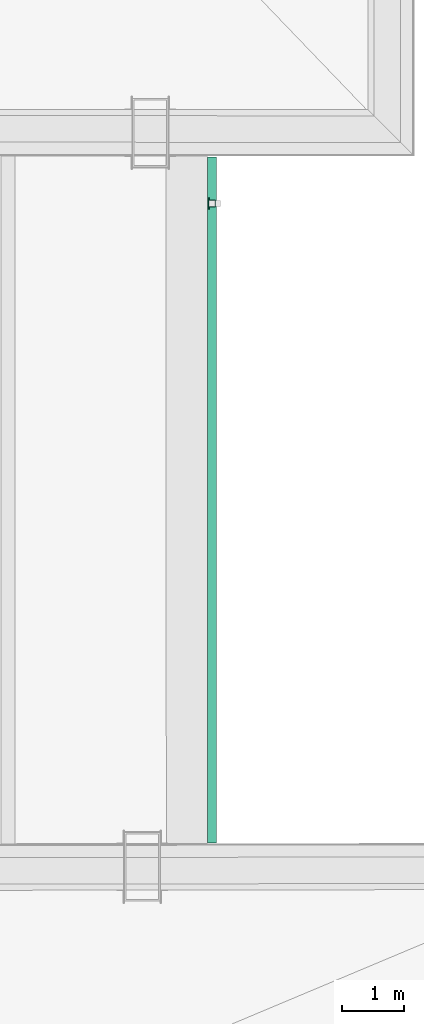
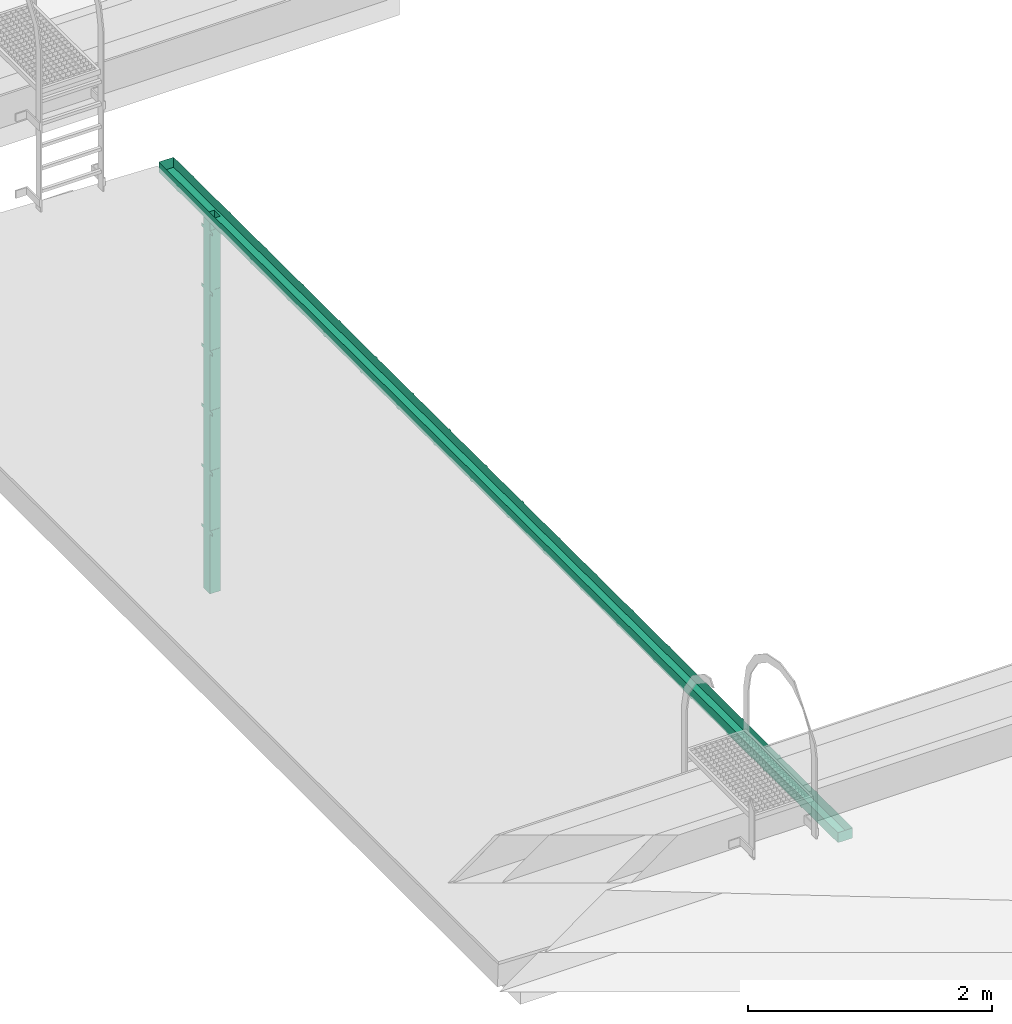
# One storey, part 27 of 47: 2 flow terminals.
"""IFC2X3 building model written with IfcOpenShell, lengths in millimetres."""

from ifc_helpers import new_model, entity, si_unit, converted_unit, derived_unit, money_unit, direction, frame, origin_with_axes, place, context, subcontext, project, spatial, open_shell, faceted_brep, surface_model, type_object, element, save


model = new_model("IFC2X3")

# Units and contexts
model_context = context("Model", 3, precision=1e-05, world=origin_with_axes(), true_north=direction((0.0, 1.0)))
body_context = subcontext(model_context, "Body", "Model", "MODEL_VIEW")
ifc_project = project(units=[si_unit("LENGTHUNIT", "METRE", prefix="MILLI"), si_unit("AREAUNIT", "SQUARE_METRE"), si_unit("VOLUMEUNIT", "CUBIC_METRE"), converted_unit("PLANEANGLEUNIT", "DEGREE", entity("IfcPlaneAngleMeasure", 0.0174532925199), si_unit("PLANEANGLEUNIT", "RADIAN"), dimensions=[0, 0, 0, 0, 0, 0, 0]), si_unit("SOLIDANGLEUNIT", "STERADIAN"), money_unit("EUR"), converted_unit("TIMEUNIT", "Year", entity("IfcTimeMeasure", 31556926.0), si_unit("TIMEUNIT", "SECOND"), dimensions=[0, 0, 1, 0, 0, 0, 0]), si_unit("MASSUNIT", "GRAM", prefix="KILO"), si_unit("THERMODYNAMICTEMPERATUREUNIT", "DEGREE_CELSIUS"), si_unit("LUMINOUSINTENSITYUNIT", "LUMEN"), si_unit("ENERGYUNIT", "JOULE", prefix="MEGA"), derived_unit("THERMALCONDUCTANCEUNIT", [(si_unit("POWERUNIT", "WATT"), 1), (si_unit("LENGTHUNIT", "METRE"), -1), (si_unit("THERMODYNAMICTEMPERATUREUNIT", "KELVIN"), -1)]), derived_unit("SPECIFICHEATCAPACITYUNIT", [(si_unit("ENERGYUNIT", "JOULE"), 1), (si_unit("MASSUNIT", "GRAM", prefix="KILO"), -1), (si_unit("THERMODYNAMICTEMPERATUREUNIT", "KELVIN"), -1)]), derived_unit("MASSDENSITYUNIT", [(si_unit("MASSUNIT", "GRAM", prefix="KILO"), 1), (si_unit("VOLUMEUNIT", "CUBIC_METRE"), -1)])], contexts=[model_context])

# Site, building, storey
site_placement = place(None, origin_with_axes())
site = spatial("IfcSite", under=ifc_project, at=site_placement, Name="Site", CompositionType="ELEMENT")
building_placement = place(site_placement, origin_with_axes())
building = spatial("IfcBuilding", under=site, at=building_placement, Name="Building", CompositionType="ELEMENT")
storey_placement = place(building_placement, frame((0.0, 0.0, 6000.0), z_axis=(0.0, 0.0, 1.0), x_axis=(1.0, 0.0, 0.0)))
storey = spatial("IfcBuildingStorey", under=building, at=storey_placement, Name="KATUSEPLAAN", CompositionType="ELEMENT", Elevation=6000.0)

# Flow terminals
waste_terminal_type_1 = type_object("IfcWasteTerminalType", Name="Gutter 22", PredefinedType="NOTDEFINED")
flow_terminal_1_placement = place(storey_placement, frame((40568.5392322, 47555.4933203, 174.455668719), z_axis=(0.0, 0.0, 1.0), x_axis=(0.0, 1.0, 0.0)))
element("IfcFlowTerminal", 1, at=flow_terminal_1_placement, inside=storey, type_object=waste_terminal_type_1, Name="Renn", context=body_context, shape_type="SurfaceModel", body=[
    surface_model("IfcShellBasedSurfaceModel", [(-0.349065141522, 70.0, -99.9993907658), (-0.349065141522, -70.0, -99.9993907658), (11113.5234374, -70.0, -138.794281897), (11113.5234374, 70.0, -138.794281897), (10413.4599925, 50.0, -136.350589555), (10413.4599925, -50.0, -136.350589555), (10313.4606017, -50.0, -136.001524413), (10313.4606017, 50.0, -136.001524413), (0.0, -70.0, 0.0), (11113.8725025, -70.0, -38.7948911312), (11113.8725025, 70.0, -38.7948911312), (0.0, 70.0, 0.0)], [open_shell([[[0, 1, 2, 3], [4, 5, 6, 7]], [[2, 1, 8, 9]], [[10, 11, 0, 3]]])]),
    surface_model("IfcShellBasedSurfaceModel", [(585.0, -74.0, -0.0420435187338), (585.0, -74.0, -104.147372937), (615.0, -74.0, -104.147372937), (615.0, -74.0, -0.0420435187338), (585.0, 74.0, -104.147372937), (615.0, 74.0, -104.147372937), (585.0, 74.0, -0.0420435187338), (615.0, 74.0, -0.0420435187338)], [open_shell([[[0, 1, 2, 3]], [[1, 4, 5, 2]], [[4, 6, 7, 5]]])]),
    surface_model("IfcShellBasedSurfaceModel", [(1185.0, -74.0, -2.13644712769), (1185.0, -74.0, -106.241776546), (1215.0, -74.0, -106.241776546), (1215.0, -74.0, -2.13644712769), (1185.0, 74.0, -106.241776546), (1215.0, 74.0, -106.241776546), (1185.0, 74.0, -2.13644712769), (1215.0, 74.0, -2.13644712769)], [open_shell([[[0, 1, 2, 3]], [[1, 4, 5, 2]], [[4, 6, 7, 5]]])]),
    surface_model("IfcShellBasedSurfaceModel", [(1785.0, -74.0, -4.23085073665), (1785.0, -74.0, -108.336180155), (1815.0, -74.0, -108.336180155), (1815.0, -74.0, -4.23085073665), (1785.0, 74.0, -108.336180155), (1815.0, 74.0, -108.336180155), (1785.0, 74.0, -4.23085073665), (1815.0, 74.0, -4.23085073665)], [open_shell([[[0, 1, 2, 3]], [[1, 4, 5, 2]], [[4, 6, 7, 5]]])]),
    surface_model("IfcShellBasedSurfaceModel", [(2385.0, -74.0, -6.32525434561), (2385.0, -74.0, -110.430583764), (2415.0, -74.0, -110.430583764), (2415.0, -74.0, -6.32525434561), (2385.0, 74.0, -110.430583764), (2415.0, 74.0, -110.430583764), (2385.0, 74.0, -6.32525434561), (2415.0, 74.0, -6.32525434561)], [open_shell([[[0, 1, 2, 3]], [[1, 4, 5, 2]], [[4, 6, 7, 5]]])]),
    surface_model("IfcShellBasedSurfaceModel", [(2985.0, -74.0, -8.41965795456), (2985.0, -74.0, -112.524987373), (3015.0, -74.0, -112.524987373), (3015.0, -74.0, -8.41965795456), (2985.0, 74.0, -112.524987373), (3015.0, 74.0, -112.524987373), (2985.0, 74.0, -8.41965795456), (3015.0, 74.0, -8.41965795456)], [open_shell([[[0, 1, 2, 3]], [[1, 4, 5, 2]], [[4, 6, 7, 5]]])]),
    surface_model("IfcShellBasedSurfaceModel", [(3585.0, -74.0, -10.5140615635), (3585.0, -74.0, -114.619390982), (3615.0, -74.0, -114.619390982), (3615.0, -74.0, -10.5140615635), (3585.0, 74.0, -114.619390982), (3615.0, 74.0, -114.619390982), (3585.0, 74.0, -10.5140615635), (3615.0, 74.0, -10.5140615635)], [open_shell([[[0, 1, 2, 3]], [[1, 4, 5, 2]], [[4, 6, 7, 5]]])]),
    surface_model("IfcShellBasedSurfaceModel", [(4185.0, -74.0, -12.6084651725), (4185.0, -74.0, -116.713794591), (4215.0, -74.0, -116.713794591), (4215.0, -74.0, -12.6084651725), (4185.0, 74.0, -116.713794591), (4215.0, 74.0, -116.713794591), (4185.0, 74.0, -12.6084651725), (4215.0, 74.0, -12.6084651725)], [open_shell([[[0, 1, 2, 3]], [[1, 4, 5, 2]], [[4, 6, 7, 5]]])]),
    surface_model("IfcShellBasedSurfaceModel", [(4785.0, -74.0, -14.7028687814), (4785.0, -74.0, -118.8081982), (4815.0, -74.0, -118.8081982), (4815.0, -74.0, -14.7028687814), (4785.0, 74.0, -118.8081982), (4815.0, 74.0, -118.8081982), (4785.0, 74.0, -14.7028687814), (4815.0, 74.0, -14.7028687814)], [open_shell([[[0, 1, 2, 3]], [[1, 4, 5, 2]], [[4, 6, 7, 5]]])]),
    surface_model("IfcShellBasedSurfaceModel", [(5385.0, -74.0, -16.7972723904), (5385.0, -74.0, -120.902601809), (5415.0, -74.0, -120.902601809), (5415.0, -74.0, -16.7972723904), (5385.0, 74.0, -120.902601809), (5415.0, 74.0, -120.902601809), (5385.0, 74.0, -16.7972723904), (5415.0, 74.0, -16.7972723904)], [open_shell([[[0, 1, 2, 3]], [[1, 4, 5, 2]], [[4, 6, 7, 5]]])]),
    surface_model("IfcShellBasedSurfaceModel", [(5985.0, -74.0, -18.8916759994), (5985.0, -74.0, -122.997005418), (6015.0, -74.0, -122.997005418), (6015.0, -74.0, -18.8916759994), (5985.0, 74.0, -122.997005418), (6015.0, 74.0, -122.997005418), (5985.0, 74.0, -18.8916759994), (6015.0, 74.0, -18.8916759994)], [open_shell([[[0, 1, 2, 3]], [[1, 4, 5, 2]], [[4, 6, 7, 5]]])]),
    surface_model("IfcShellBasedSurfaceModel", [(6585.0, -74.0, -20.9860796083), (6585.0, -74.0, -125.091409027), (6615.0, -74.0, -125.091409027), (6615.0, -74.0, -20.9860796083), (6585.0, 74.0, -125.091409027), (6615.0, 74.0, -125.091409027), (6585.0, 74.0, -20.9860796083), (6615.0, 74.0, -20.9860796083)], [open_shell([[[0, 1, 2, 3]], [[1, 4, 5, 2]], [[4, 6, 7, 5]]])]),
    surface_model("IfcShellBasedSurfaceModel", [(7185.0, -74.0, -23.0804832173), (7185.0, -74.0, -127.185812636), (7215.0, -74.0, -127.185812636), (7215.0, -74.0, -23.0804832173), (7185.0, 74.0, -127.185812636), (7215.0, 74.0, -127.185812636), (7185.0, 74.0, -23.0804832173), (7215.0, 74.0, -23.0804832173)], [open_shell([[[0, 1, 2, 3]], [[1, 4, 5, 2]], [[4, 6, 7, 5]]])]),
    surface_model("IfcShellBasedSurfaceModel", [(7785.0, -74.0, -25.1748868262), (7785.0, -74.0, -129.280216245), (7815.0, -74.0, -129.280216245), (7815.0, -74.0, -25.1748868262), (7785.0, 74.0, -129.280216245), (7815.0, 74.0, -129.280216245), (7785.0, 74.0, -25.1748868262), (7815.0, 74.0, -25.1748868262)], [open_shell([[[0, 1, 2, 3]], [[1, 4, 5, 2]], [[4, 6, 7, 5]]])]),
    surface_model("IfcShellBasedSurfaceModel", [(8385.0, -74.0, -27.2692904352), (8385.0, -74.0, -131.374619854), (8415.0, -74.0, -131.374619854), (8415.0, -74.0, -27.2692904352), (8385.0, 74.0, -131.374619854), (8415.0, 74.0, -131.374619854), (8385.0, 74.0, -27.2692904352), (8415.0, 74.0, -27.2692904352)], [open_shell([[[0, 1, 2, 3]], [[1, 4, 5, 2]], [[4, 6, 7, 5]]])]),
    surface_model("IfcShellBasedSurfaceModel", [(8985.0, -74.0, -29.3636940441), (8985.0, -74.0, -133.469023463), (9015.0, -74.0, -133.469023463), (9015.0, -74.0, -29.3636940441), (8985.0, 74.0, -133.469023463), (9015.0, 74.0, -133.469023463), (8985.0, 74.0, -29.3636940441), (9015.0, 74.0, -29.3636940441)], [open_shell([[[0, 1, 2, 3]], [[1, 4, 5, 2]], [[4, 6, 7, 5]]])]),
    surface_model("IfcShellBasedSurfaceModel", [(9585.0, -74.0, -31.4580976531), (9585.0, -74.0, -135.563427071), (9615.0, -74.0, -135.563427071), (9615.0, -74.0, -31.4580976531), (9585.0, 74.0, -135.563427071), (9615.0, 74.0, -135.563427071), (9585.0, 74.0, -31.4580976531), (9615.0, 74.0, -31.4580976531)], [open_shell([[[0, 1, 2, 3]], [[1, 4, 5, 2]], [[4, 6, 7, 5]]])]),
    surface_model("IfcShellBasedSurfaceModel", [(10185.0, -74.0, -33.5525012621), (10185.0, -74.0, -137.65783068), (10215.0, -74.0, -137.65783068), (10215.0, -74.0, -33.5525012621), (10185.0, 74.0, -137.65783068), (10215.0, 74.0, -137.65783068), (10185.0, 74.0, -33.5525012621), (10215.0, 74.0, -33.5525012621)], [open_shell([[[0, 1, 2, 3]], [[1, 4, 5, 2]], [[4, 6, 7, 5]]])]),
    surface_model("IfcShellBasedSurfaceModel", [(10785.0, -74.0, -35.646904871), (10785.0, -74.0, -139.752234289), (10815.0, -74.0, -139.752234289), (10815.0, -74.0, -35.646904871), (10785.0, 74.0, -139.752234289), (10815.0, 74.0, -139.752234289), (10785.0, 74.0, -35.646904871), (10815.0, 74.0, -35.646904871)], [open_shell([[[0, 1, 2, 3]], [[1, 4, 5, 2]], [[4, 6, 7, 5]]])]),
    surface_model("IfcShellBasedSurfaceModel", [(0.0, 70.0, 0.0), (-0.349065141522, 70.0, -99.9993907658), (-0.349065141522, -70.0, -99.9993907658), (0.0, -70.0, 0.0)], [open_shell([[[0, 1, 2, 3]]])]),
    surface_model("IfcShellBasedSurfaceModel", [(11113.8725025, 70.0, -38.7948911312), (11113.5234374, 70.0, -138.794281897), (11113.5234374, -70.0, -138.794281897), (11113.8725025, -70.0, -38.7948911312)], [open_shell([[[0, 1, 2, 3]]])]),
])
waste_terminal_type_2 = type_object("IfcWasteTerminalType", Name="Downspout 22", PredefinedType="NOTDEFINED")
flow_terminal_2_placement = place(storey_placement, frame((40567.8666404, 57917.6920098, -3702.00885664), z_axis=(0.0, 0.0, 1.0), x_axis=(0.0, 1.0, 0.0)))
element("IfcFlowTerminal", 2, at=flow_terminal_2_placement, inside=storey, type_object=waste_terminal_type_2, Name="FU - 002", context=body_context, shape_type="SurfaceModel", body=[
    surface_model("IfcShellBasedSurfaceModel", [(50.0, -50.0, 3740.28846838), (50.0, -50.0, 0.0), (50.0, 50.0, 0.0), (50.0, 50.0, 3740.28846838), (-50.0, -50.0, 3740.28846838), (-50.0, -50.0, 0.0), (-50.0, 50.0, 0.0), (-50.0, 50.0, 3740.28846838)], [open_shell([[[0, 1, 2, 3]], [[4, 5, 1, 0]], [[3, 2, 6, 7]], [[7, 6, 5, 4]]])]),
    faceted_brep([(90.0, 47.9, 600.0), (90.0, 47.9, 630.0), (52.0, 47.9, 630.0), (52.0, 47.9, 600.0), (90.0, 49.9, 600.0), (90.0, 49.9, 630.0), (50.2, 49.9, 630.0), (50.2, -50.3, 630.0), (-50.2, -50.3, 630.0), (-50.2, 49.9, 630.0), (-90.0, 49.9, 630.0), (-90.0, 47.9, 630.0), (-52.0, 47.9, 630.0), (-52.0, -52.1, 630.0), (52.0, -52.1, 630.0), (52.0, -52.1, 600.0), (-52.0, -52.1, 600.0), (-52.0, 47.9, 600.0), (-90.0, 47.9, 600.0), (-90.0, 49.9, 600.0), (-50.2, 49.9, 600.0), (-50.2, -50.3, 600.0), (50.2, -50.3, 600.0), (50.2, 49.9, 600.0)], [[[0, 1, 2, 3]], [[4, 5, 1, 0]], [[1, 5, 6, 7, 8, 9, 10, 11, 12, 13, 14, 2]], [[3, 2, 14, 15]], [[0, 3, 15, 16, 17, 18, 19, 20, 21, 22, 23, 4]], [[23, 6, 5, 4]], [[22, 7, 6, 23]], [[21, 8, 7, 22]], [[20, 9, 8, 21]], [[19, 10, 9, 20]], [[18, 11, 10, 19]], [[17, 12, 11, 18]], [[16, 13, 12, 17]], [[15, 14, 13, 16]]]),
    faceted_brep([(90.0, 47.9, 1200.0), (90.0, 47.9, 1230.0), (52.0, 47.9, 1230.0), (52.0, 47.9, 1200.0), (90.0, 49.9, 1200.0), (90.0, 49.9, 1230.0), (50.2, 49.9, 1230.0), (50.2, -50.3, 1230.0), (-50.2, -50.3, 1230.0), (-50.2, 49.9, 1230.0), (-90.0, 49.9, 1230.0), (-90.0, 47.9, 1230.0), (-52.0, 47.9, 1230.0), (-52.0, -52.1, 1230.0), (52.0, -52.1, 1230.0), (52.0, -52.1, 1200.0), (-52.0, -52.1, 1200.0), (-52.0, 47.9, 1200.0), (-90.0, 47.9, 1200.0), (-90.0, 49.9, 1200.0), (-50.2, 49.9, 1200.0), (-50.2, -50.3, 1200.0), (50.2, -50.3, 1200.0), (50.2, 49.9, 1200.0)], [[[0, 1, 2, 3]], [[4, 5, 1, 0]], [[1, 5, 6, 7, 8, 9, 10, 11, 12, 13, 14, 2]], [[3, 2, 14, 15]], [[0, 3, 15, 16, 17, 18, 19, 20, 21, 22, 23, 4]], [[23, 6, 5, 4]], [[22, 7, 6, 23]], [[21, 8, 7, 22]], [[20, 9, 8, 21]], [[19, 10, 9, 20]], [[18, 11, 10, 19]], [[17, 12, 11, 18]], [[16, 13, 12, 17]], [[15, 14, 13, 16]]]),
    faceted_brep([(90.0, 47.9, 1800.0), (90.0, 47.9, 1830.0), (52.0, 47.9, 1830.0), (52.0, 47.9, 1800.0), (90.0, 49.9, 1800.0), (90.0, 49.9, 1830.0), (50.2, 49.9, 1830.0), (50.2, -50.3, 1830.0), (-50.2, -50.3, 1830.0), (-50.2, 49.9, 1830.0), (-90.0, 49.9, 1830.0), (-90.0, 47.9, 1830.0), (-52.0, 47.9, 1830.0), (-52.0, -52.1, 1830.0), (52.0, -52.1, 1830.0), (52.0, -52.1, 1800.0), (-52.0, -52.1, 1800.0), (-52.0, 47.9, 1800.0), (-90.0, 47.9, 1800.0), (-90.0, 49.9, 1800.0), (-50.2, 49.9, 1800.0), (-50.2, -50.3, 1800.0), (50.2, -50.3, 1800.0), (50.2, 49.9, 1800.0)], [[[0, 1, 2, 3]], [[4, 5, 1, 0]], [[1, 5, 6, 7, 8, 9, 10, 11, 12, 13, 14, 2]], [[3, 2, 14, 15]], [[0, 3, 15, 16, 17, 18, 19, 20, 21, 22, 23, 4]], [[23, 6, 5, 4]], [[22, 7, 6, 23]], [[21, 8, 7, 22]], [[20, 9, 8, 21]], [[19, 10, 9, 20]], [[18, 11, 10, 19]], [[17, 12, 11, 18]], [[16, 13, 12, 17]], [[15, 14, 13, 16]]]),
    faceted_brep([(90.0, 47.9, 2400.0), (90.0, 47.9, 2430.0), (52.0, 47.9, 2430.0), (52.0, 47.9, 2400.0), (90.0, 49.9, 2400.0), (90.0, 49.9, 2430.0), (50.2, 49.9, 2430.0), (50.2, -50.3, 2430.0), (-50.2, -50.3, 2430.0), (-50.2, 49.9, 2430.0), (-90.0, 49.9, 2430.0), (-90.0, 47.9, 2430.0), (-52.0, 47.9, 2430.0), (-52.0, -52.1, 2430.0), (52.0, -52.1, 2430.0), (52.0, -52.1, 2400.0), (-52.0, -52.1, 2400.0), (-52.0, 47.9, 2400.0), (-90.0, 47.9, 2400.0), (-90.0, 49.9, 2400.0), (-50.2, 49.9, 2400.0), (-50.2, -50.3, 2400.0), (50.2, -50.3, 2400.0), (50.2, 49.9, 2400.0)], [[[0, 1, 2, 3]], [[4, 5, 1, 0]], [[1, 5, 6, 7, 8, 9, 10, 11, 12, 13, 14, 2]], [[3, 2, 14, 15]], [[0, 3, 15, 16, 17, 18, 19, 20, 21, 22, 23, 4]], [[23, 6, 5, 4]], [[22, 7, 6, 23]], [[21, 8, 7, 22]], [[20, 9, 8, 21]], [[19, 10, 9, 20]], [[18, 11, 10, 19]], [[17, 12, 11, 18]], [[16, 13, 12, 17]], [[15, 14, 13, 16]]]),
    faceted_brep([(90.0, 47.9, 3000.0), (90.0, 47.9, 3030.0), (52.0, 47.9, 3030.0), (52.0, 47.9, 3000.0), (90.0, 49.9, 3000.0), (90.0, 49.9, 3030.0), (50.2, 49.9, 3030.0), (50.2, -50.3, 3030.0), (-50.2, -50.3, 3030.0), (-50.2, 49.9, 3030.0), (-90.0, 49.9, 3030.0), (-90.0, 47.9, 3030.0), (-52.0, 47.9, 3030.0), (-52.0, -52.1, 3030.0), (52.0, -52.1, 3030.0), (52.0, -52.1, 3000.0), (-52.0, -52.1, 3000.0), (-52.0, 47.9, 3000.0), (-90.0, 47.9, 3000.0), (-90.0, 49.9, 3000.0), (-50.2, 49.9, 3000.0), (-50.2, -50.3, 3000.0), (50.2, -50.3, 3000.0), (50.2, 49.9, 3000.0)], [[[0, 1, 2, 3]], [[4, 5, 1, 0]], [[1, 5, 6, 7, 8, 9, 10, 11, 12, 13, 14, 2]], [[3, 2, 14, 15]], [[0, 3, 15, 16, 17, 18, 19, 20, 21, 22, 23, 4]], [[23, 6, 5, 4]], [[22, 7, 6, 23]], [[21, 8, 7, 22]], [[20, 9, 8, 21]], [[19, 10, 9, 20]], [[18, 11, 10, 19]], [[17, 12, 11, 18]], [[16, 13, 12, 17]], [[15, 14, 13, 16]]]),
    faceted_brep([(90.0, 47.9, 3600.0), (90.0, 47.9, 3630.0), (52.0, 47.9, 3630.0), (52.0, 47.9, 3600.0), (90.0, 49.9, 3600.0), (90.0, 49.9, 3630.0), (50.2, 49.9, 3630.0), (50.2, -50.3, 3630.0), (-50.2, -50.3, 3630.0), (-50.2, 49.9, 3630.0), (-90.0, 49.9, 3630.0), (-90.0, 47.9, 3630.0), (-52.0, 47.9, 3630.0), (-52.0, -52.1, 3630.0), (52.0, -52.1, 3630.0), (52.0, -52.1, 3600.0), (-52.0, -52.1, 3600.0), (-52.0, 47.9, 3600.0), (-90.0, 47.9, 3600.0), (-90.0, 49.9, 3600.0), (-50.2, 49.9, 3600.0), (-50.2, -50.3, 3600.0), (50.2, -50.3, 3600.0), (50.2, 49.9, 3600.0)], [[[0, 1, 2, 3]], [[4, 5, 1, 0]], [[1, 5, 6, 7, 8, 9, 10, 11, 12, 13, 14, 2]], [[3, 2, 14, 15]], [[0, 3, 15, 16, 17, 18, 19, 20, 21, 22, 23, 4]], [[23, 6, 5, 4]], [[22, 7, 6, 23]], [[21, 8, 7, 22]], [[20, 9, 8, 21]], [[19, 10, 9, 20]], [[18, 11, 10, 19]], [[17, 12, 11, 18]], [[16, 13, 12, 17]], [[15, 14, 13, 16]]]),
])

save(model, "model.ifc")
